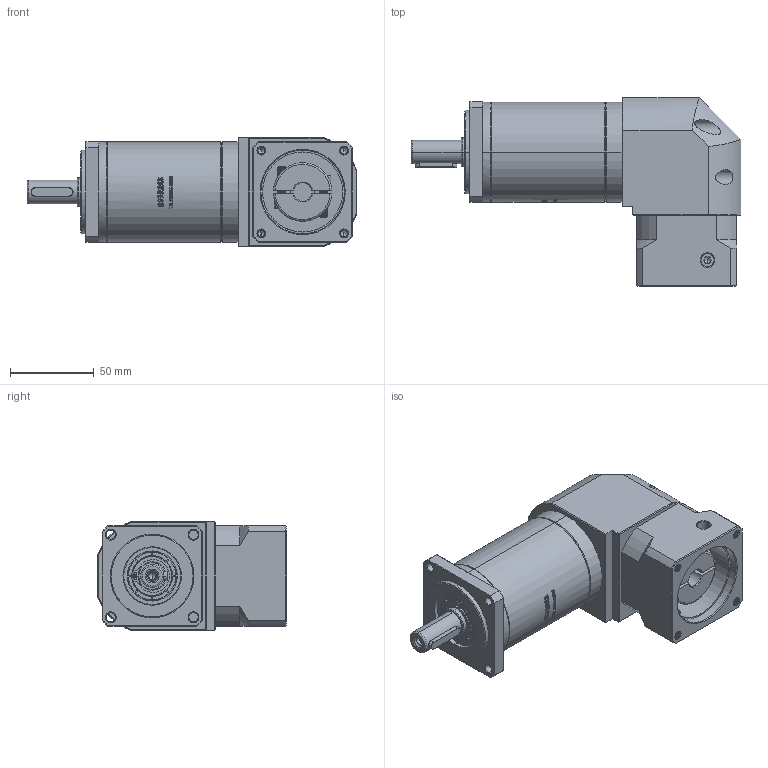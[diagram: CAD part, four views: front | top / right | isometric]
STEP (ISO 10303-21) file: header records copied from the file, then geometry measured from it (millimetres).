
FILE_DESCRIPTION (( 'STEP AP214' ), '1' );
FILE_NAME ('ZFR60-D14-L3-11-50-70-M5.STEP', '2022-04-20T08:50:12', ( '' ), ( 'Microsoft' ), 'SwSTEP 2.0', 'SolidWorks 2016', '' );
FILE_SCHEMA (( 'AUTOMOTIVE_DESIGN' ));
Length unit declared in the file: millimetre
Products named in the file (1): ZFR60-D14-L3-11-50-70-M5
Bounding box: 197.5 x 112.7 x 65 mm (x, y, z)
Volume: 635969.7 mm3; surface area: 85470.7 mm2
Topology: 5 solids, 6 shells, 2692 faces, 7344 edges, 4789 vertices
Faces by surface type: plane 1397, bspline 579, cylinder 402, cone 288, torus 26
Entity records: 149120 total; most frequent: CARTESIAN_POINT 56972, ORIENTED_EDGE 14644, DIRECTION 10548, EDGE_CURVE 7322, VERTEX_POINT 4789, LINE 4396, VECTOR 4396, AXIS2_PLACEMENT_3D 3076
